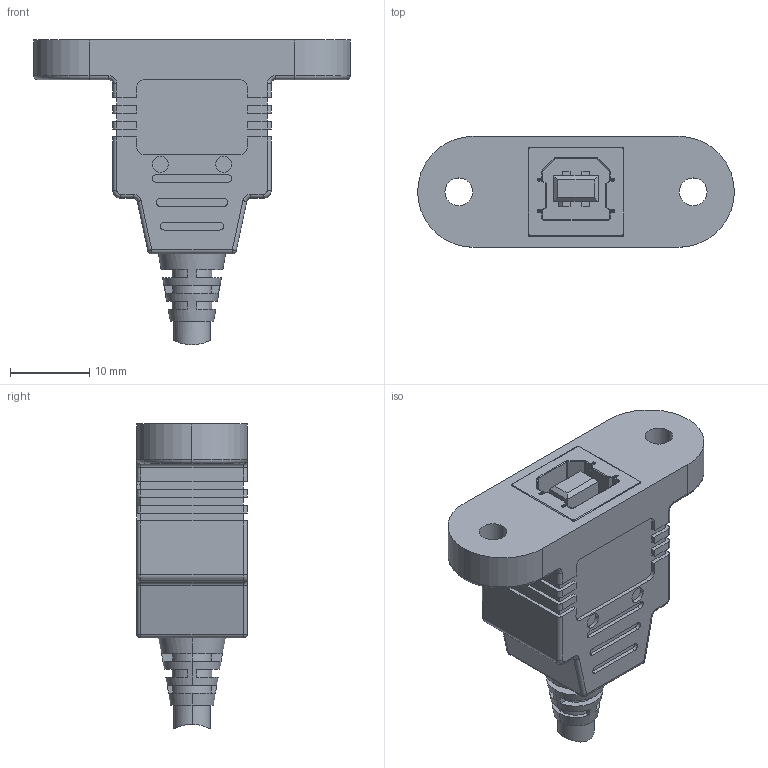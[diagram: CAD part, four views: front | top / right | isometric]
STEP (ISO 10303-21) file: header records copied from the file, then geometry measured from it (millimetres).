
FILE_DESCRIPTION (( 'STEP AP214' ), '1' );
FILE_NAME ('User Library-Usb-B-Panel.STEP', '2018-04-29T14:14:36', ( '' ), ( '' ), 'SwSTEP 2.0', 'SolidWorks 2018', '' );
FILE_SCHEMA (( 'AUTOMOTIVE_DESIGN' ));
Length unit declared in the file: millimetre
Products named in the file (1): User Library-Usb-B-Panel
Bounding box: 40 x 14 x 38.6 mm (x, y, z)
Volume: 7408.4 mm3; surface area: 4240 mm2
Topology: 1 solids, 1 shells, 368 faces, 967 edges, 615 vertices
Faces by surface type: plane 187, cylinder 140, torus 35, sphere 4, cone 2
Entity records: 14689 total; most frequent: CARTESIAN_POINT 2331, DIRECTION 1975, ORIENTED_EDGE 1926, EDGE_CURVE 963, AXIS2_PLACEMENT_3D 681, VERTEX_POINT 615, VECTOR 613, LINE 613
